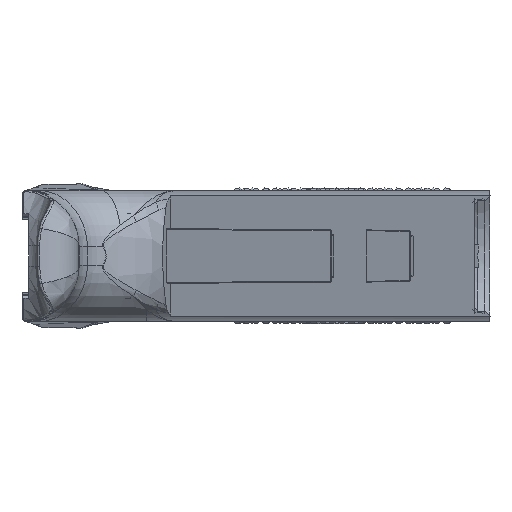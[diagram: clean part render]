
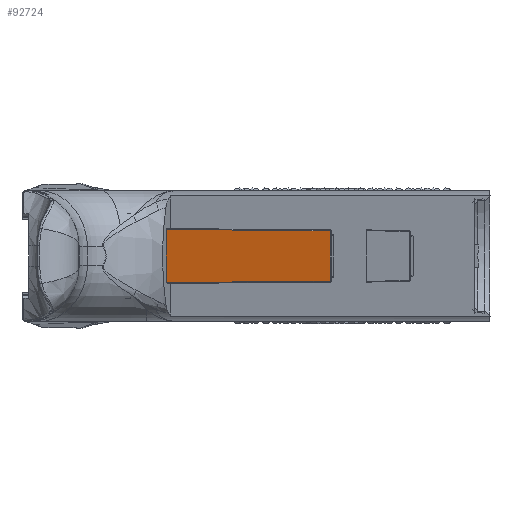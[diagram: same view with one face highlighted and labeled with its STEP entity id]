
A CAD part, left-side view. The second image highlights one B-rep face of the part: STEP entity #92724.
In plain terms, the highlighted planar face has unit normal (-0.951, 0.309, 0).
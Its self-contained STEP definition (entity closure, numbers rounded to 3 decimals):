
#6444 = LINE ( 'NONE', #31292, #52379 ) ;
#6644 = VERTEX_POINT ( 'NONE', #125806 ) ;
#19659 = VECTOR ( 'NONE', #24900, 1000. ) ;
#20457 = CARTESIAN_POINT ( 'NONE',  ( -73.586, -18.725, -25.113 ) ) ;
#21010 = CARTESIAN_POINT ( 'NONE',  ( -73.586, -18.725, -13.886 ) ) ;
#24900 = DIRECTION ( 'NONE',  ( 0., 0., -1. ) ) ;
#31292 = CARTESIAN_POINT ( 'NONE',  ( -71.278, -11.623, -32.673 ) ) ;
#39932 = ORIENTED_EDGE ( 'NONE', *, *, #156589, .T. ) ;
#43924 = ORIENTED_EDGE ( 'NONE', *, *, #62405, .T. ) ;
#44256 = EDGE_CURVE ( 'NONE', #164308, #6644, #67866, .T. ) ;
#47071 = LINE ( 'NONE', #59877, #109890 ) ;
#49046 = ORIENTED_EDGE ( 'NONE', *, *, #44256, .T. ) ;
#52379 = VECTOR ( 'NONE', #137505, 1000. ) ;
#53704 = VECTOR ( 'NONE', #161898, 1000. ) ;
#54988 = DIRECTION ( 'NONE',  ( -0.309, -0.951, 0.006 ) ) ;
#59877 = CARTESIAN_POINT ( 'NONE',  ( -73.586, -18.725, -25.314 ) ) ;
#61541 = CARTESIAN_POINT ( 'NONE',  ( -61.056, 19.838, 0. ) ) ;
#62405 = EDGE_CURVE ( 'NONE', #6644, #68951, #6444, .T. ) ;
#62912 = EDGE_LOOP ( 'NONE', ( #81810, #49046, #43924, #39932, #118267 ) ) ;
#65777 = EDGE_CURVE ( 'NONE', #82662, #108916, #81976, .T. ) ;
#67866 = LINE ( 'NONE', #108893, #72131 ) ;
#68951 = VERTEX_POINT ( 'NONE', #20457 ) ;
#72131 = VECTOR ( 'NONE', #54988, 1000. ) ;
#81810 = ORIENTED_EDGE ( 'NONE', *, *, #126464, .T. ) ;
#81976 = LINE ( 'NONE', #134423, #53704 ) ;
#82662 = VERTEX_POINT ( 'NONE', #21010 ) ;
#85455 = FACE_OUTER_BOUND ( 'NONE', #62912, .T. ) ;
#89804 = LINE ( 'NONE', #142245, #19659 ) ;
#92724 = ADVANCED_FACE ( 'NONE', ( #85455 ), #126611, .T. ) ;
#108607 = AXIS2_PLACEMENT_3D ( 'NONE', #61541, #113727, #166251 ) ;
#108893 = CARTESIAN_POINT ( 'NONE',  ( -73.586, -18.724, -25.114 ) ) ;
#108916 = VERTEX_POINT ( 'NONE', #126139 ) ;
#109890 = VECTOR ( 'NONE', #110398, 1000. ) ;
#110398 = DIRECTION ( 'NONE',  ( 0., 0., 1. ) ) ;
#113727 = DIRECTION ( 'NONE',  ( -0.951, 0.309, 0. ) ) ;
#118267 = ORIENTED_EDGE ( 'NONE', *, *, #65777, .T. ) ;
#125806 = CARTESIAN_POINT ( 'NONE',  ( -73.586, -18.724, -25.114 ) ) ;
#126139 = CARTESIAN_POINT ( 'NONE',  ( -61.812, 17.51, -13.65 ) ) ;
#126464 = EDGE_CURVE ( 'NONE', #108916, #164308, #89804, .T. ) ;
#126611 = PLANE ( 'NONE',  #108607 ) ;
#130141 = CARTESIAN_POINT ( 'NONE',  ( -61.812, 17.51, -25.35 ) ) ;
#134423 = CARTESIAN_POINT ( 'NONE',  ( -61.812, 17.511, -13.65 ) ) ;
#137505 = DIRECTION ( 'NONE',  ( -0.217, -0.668, 0.711 ) ) ;
#142245 = CARTESIAN_POINT ( 'NONE',  ( -61.812, 17.51, -25.55 ) ) ;
#156589 = EDGE_CURVE ( 'NONE', #68951, #82662, #47071, .T. ) ;
#161898 = DIRECTION ( 'NONE',  ( 0.309, 0.951, 0.006 ) ) ;
#164308 = VERTEX_POINT ( 'NONE', #130141 ) ;
#166251 = DIRECTION ( 'NONE',  ( -0.309, -0.951, 0. ) ) ;
